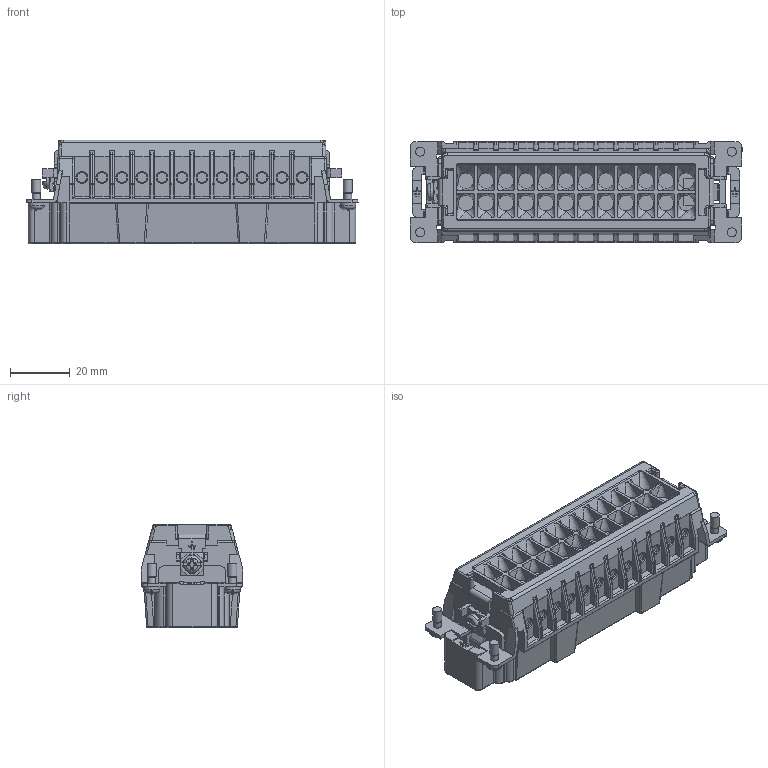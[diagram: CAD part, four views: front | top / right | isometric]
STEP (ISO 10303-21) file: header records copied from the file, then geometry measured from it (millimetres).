
FILE_DESCRIPTION((''),'2;1');
FILE_NAME('E:\WorkFolder\Serie\PB\STEP\PBH24M.stp','2010-07-29T15:38:06',('andre'),(''),'Autodesk Inventor 10','Autodesk Inventor 10','');
FILE_SCHEMA(('AUTOMOTIVE_DESIGN { 1 0 10303 214 1 1 1 1 }'));
Length unit declared in the file: millimetre
Products named in the file (1): PBH24M-1
Bounding box: 111.1 x 33.8 x 34.7 mm (x, y, z)
Surface area: 30298.6 mm2 (no closed solid volume)
Topology: 0 solids, 1 shells, 2550 faces, 7225 edges, 4679 vertices
Faces by surface type: plane 1410, cylinder 645, bspline 244, cone 122, torus 99, sphere 30
Full cylindrical faces by diameter (mm): 0.6 x3, 2.5 x24, 2.6 x4, 2.85 x1, 3 x5, 3.1 x1, 3.3 x1, 6 x1
Entity records: 94465 total; most frequent: CARTESIAN_POINT 29338, ORIENTED_EDGE 14084, DIRECTION 13020, EDGE_CURVE 7046, VERTEX_POINT 4652, VECTOR 4434, LINE 4434, AXIS2_PLACEMENT_3D 4293
